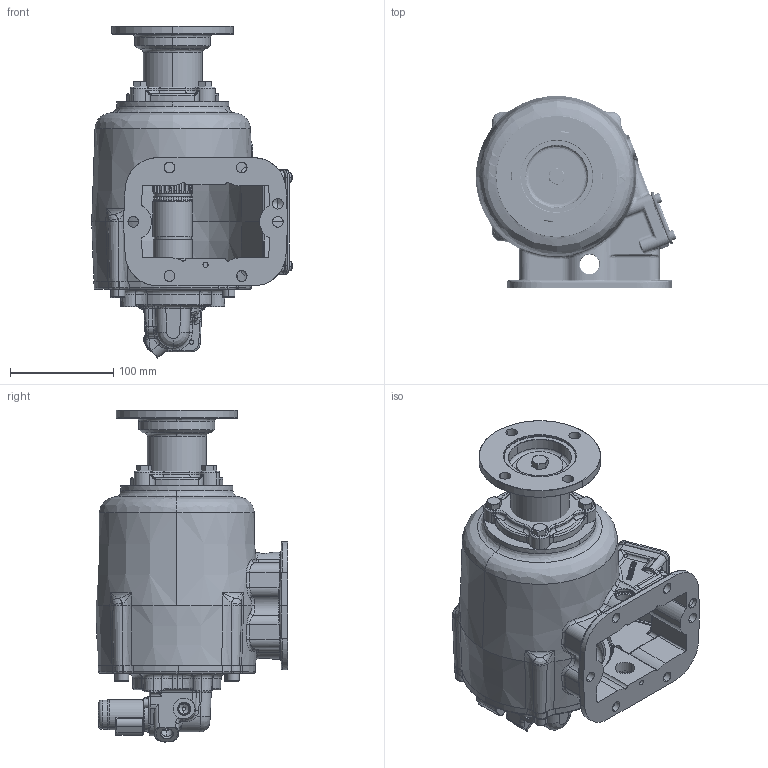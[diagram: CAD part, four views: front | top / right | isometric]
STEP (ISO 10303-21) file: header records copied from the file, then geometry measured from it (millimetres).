
FILE_DESCRIPTION (( 'STEP AP203' ), '1' );
FILE_NAME ('CS6B-XXXXX-S3CX.STEP', '2023-05-24T12:40:21', ( '' ), ( '' ), 'SwSTEP 2.0', 'SolidWorks 2021', '' );
FILE_SCHEMA (( 'CONFIG_CONTROL_DESIGN' ));
Length unit declared in the file: inch
Products named in the file (19): 16T41119; 19T36174; 19T33233; 21T20092; 19T41118; 01T37072-01; 19T38266; 19T35237; CS6B-XXXXX-S3CX; 12T34003; 06T37372_dummy; 24T36894; 19T40859; 25T21684; 15T41597; 14T37357; 11T36124-1; 35T40860-2; 15T41683
Assembly tree (32 placements, depth 2):
  CS6B-XXXXX-S3CX
    01T37072-01
    16T41119
    12T34003
    25T21684  x2
    19T41118  x4
    11T36124-1
    24T36894
    19T33233  x4
    19T36174  x4
    15T41597
    35T40860-2
    19T35237  x4
    19T40859  x2
    14T37357
    19T38266
    15T41683
    06T37372_dummy
    21T20092
Bounding box: 193.76 x 185.25 x 320.85 mm (x, y, z)
Volume: 1565913.6 mm3; surface area: 457174.1 mm2
Topology: 29 solids, 37 shells, 3178 faces, 8045 edges, 4975 vertices
Faces by surface type: bspline 891, plane 856, cylinder 765, cone 449, torus 200, sphere 17
Entity records: 180700 total; most frequent: CARTESIAN_POINT 116451, ORIENTED_EDGE 14492, DIRECTION 10412, EDGE_CURVE 7247, VERTEX_POINT 4554, AXIS2_PLACEMENT_3D 4052, EDGE_LOOP 3076, FACE_OUTER_BOUND 2851
